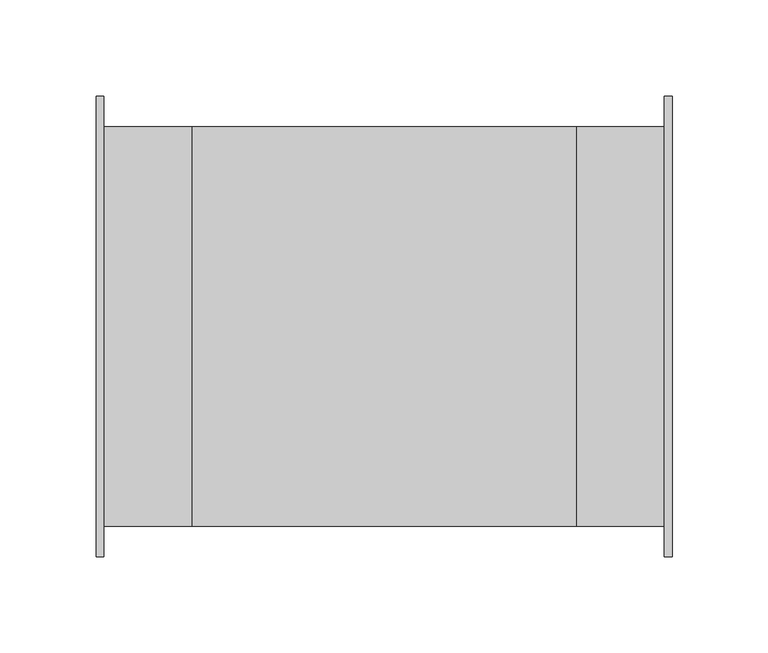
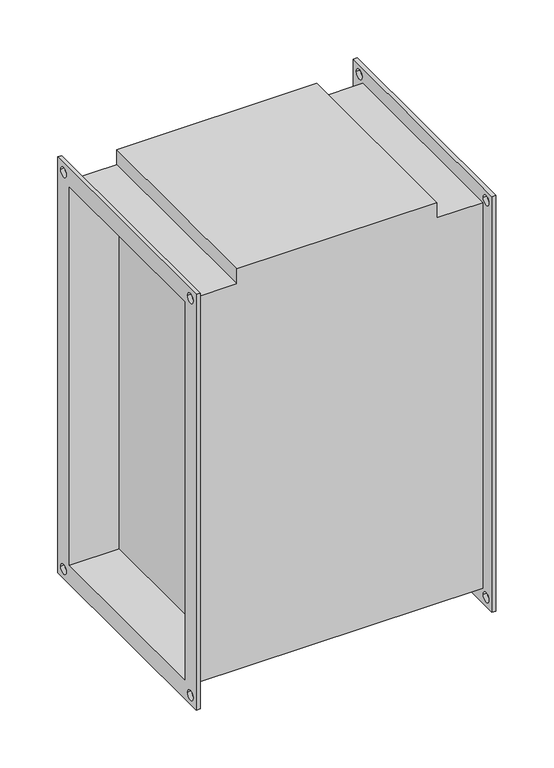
"""IFC4 building model written with IfcOpenShell, lengths in millimetres: proxy geometry."""

from ifc_helpers import new_model, si_unit, frame, origin, place, context, project, spatial, polyline, circle_curve, source, transform, mapped, element, save
from ifc_brep_helpers import plane_surface, revolved_surface, advanced_brep


def mechanical_equipment_d7a41091(model_context):
    return source(origin(), model_context, "Body", "AdvancedBrep", [
        advanced_brep(
        [(-100.0, -104.0, 204.0), (-146.0, -104.0, 204.0), (-146.0, -104.0, -204.0), (146.0, -104.0, -204.0), (146.0, -104.0, 204.0), (100.0, -104.0, 204.0), (100.0, -104.0, 220.0), (-100.0, -104.0, 220.0), (-146.0, 104.0, -204.0), (146.0, 104.0, -204.0), (-146.0, 104.0, 204.0), (-100.0, 104.0, 204.0), (-100.0, 104.0, 220.0), (100.0, 104.0, 220.0), (100.0, 104.0, 204.0), (146.0, 104.0, 204.0), (100.0, 100.0, -200.0), (100.0, 100.0, 200.0), (100.0, -100.0, 200.0), (100.0, -100.0, -200.0), (-100.0, -100.0, 200.0), (-100.0, 100.0, 200.0), (-100.0, 100.0, -200.0), (-100.0, -100.0, -200.0), (-150.0, -120.0, 220.0), (-150.0, 120.0, 220.0), (-150.0, 120.0, -220.0), (-150.0, -120.0, -220.0), (-150.0, -100.0, 200.0), (-150.0, -100.0, -200.0), (-150.0, 100.0, -200.0), (-150.0, 100.0, 200.0), (-150.0, 105.0, 210.0), (-150.0, 115.0, 210.0), (-150.0, -115.0, 210.0), (-150.0, -105.0, 210.0), (-150.0, -115.0, -210.0), (-150.0, -105.0, -210.0), (-150.0, 105.0, -210.0), (-150.0, 115.0, -210.0), (-146.0, -120.0, 220.0), (-146.0, -120.0, -220.0), (-146.0, 120.0, -220.0), (-146.0, 120.0, 220.0), (-146.0, 115.0, 210.0), (-146.0, 105.0, 210.0), (-146.0, -105.0, 210.0), (-146.0, -115.0, 210.0), (-146.0, -105.0, -210.0), (-146.0, -115.0, -210.0), (-146.0, 115.0, -210.0), (-146.0, 105.0, -210.0), (146.0, 120.0, 220.0), (146.0, 120.0, -220.0), (146.0, -120.0, -220.0), (146.0, -120.0, 220.0), (146.0, 105.0, 210.0), (146.0, 115.0, 210.0), (146.0, -115.0, 210.0), (146.0, -105.0, 210.0), (146.0, -115.0, -210.0), (146.0, -105.0, -210.0), (146.0, 105.0, -210.0), (146.0, 115.0, -210.0), (150.0, 120.0, 220.0), (150.0, -120.0, 220.0), (150.0, -120.0, -220.0), (150.0, 120.0, -220.0), (150.0, 100.0, 200.0), (150.0, 100.0, -200.0), (150.0, -100.0, -200.0), (150.0, -100.0, 200.0), (150.0, 115.0, 210.0), (150.0, 105.0, 210.0), (150.0, -105.0, 210.0), (150.0, -115.0, 210.0), (150.0, -105.0, -210.0), (150.0, -115.0, -210.0), (150.0, 115.0, -210.0), (150.0, 105.0, -210.0)],
        [
            (0, 1),
            (1, 2),
            (2, 3),
            (3, 4),
            (4, 5),
            (5, 6),
            (6, 7),
            (7, 0),
            (2, 8),
            (8, 9),
            (9, 3),
            (10, 11),
            (11, 12),
            (12, 13),
            (13, 14),
            (14, 15),
            (15, 9),
            (8, 10),
            (0, 11),
            (10, 1),
            (13, 6),
            (5, 14),
            (16, 17),
            (17, 18),
            (18, 19),
            (19, 16),
            (7, 12),
            (20, 21),
            (21, 22),
            (22, 23),
            (23, 20),
            (4, 15),
            (24, 25),
            (25, 26),
            (26, 27),
            (27, 24),
            (28, 29),
            (29, 30),
            (30, 31),
            (31, 28),
            (32, 33, circle_curve(frame((-150.0, 110.0, 210.0), z_axis=(1.0, 0.0, 0.0), x_axis=(0.0, 1.0, 0.0)), 5.0)),
            (33, 32, circle_curve(frame((-150.0, 110.0, 210.0), z_axis=(1.0, 0.0, 0.0), x_axis=(0.0, 1.0, 0.0)), 5.0)),
            (34, 35, circle_curve(frame((-150.0, -110.0, 210.0), z_axis=(1.0, 0.0, 0.0), x_axis=(0.0, 1.0, 0.0)), 5.0)),
            (35, 34, circle_curve(frame((-150.0, -110.0, 210.0), z_axis=(1.0, 0.0, 0.0), x_axis=(0.0, 1.0, 0.0)), 5.0)),
            (36, 37, circle_curve(frame((-150.0, -110.0, -210.0), z_axis=(1.0, 0.0, 0.0), x_axis=(0.0, 1.0, 0.0)), 5.0)),
            (37, 36, circle_curve(frame((-150.0, -110.0, -210.0), z_axis=(1.0, 0.0, 0.0), x_axis=(0.0, 1.0, 0.0)), 5.0)),
            (38, 39, circle_curve(frame((-150.0, 110.0, -210.0), z_axis=(1.0, 0.0, 0.0), x_axis=(0.0, 1.0, 0.0)), 5.0)),
            (39, 38, circle_curve(frame((-150.0, 110.0, -210.0), z_axis=(1.0, 0.0, 0.0), x_axis=(0.0, 1.0, 0.0)), 5.0)),
            (40, 41),
            (41, 42),
            (42, 43),
            (43, 40),
            (44, 45, circle_curve(frame((-146.0, 110.0, 210.0), z_axis=(-1.0, 0.0, 0.0), x_axis=(0.0, 1.0, 0.0)), 5.0)),
            (45, 44, circle_curve(frame((-146.0, 110.0, 210.0), z_axis=(-1.0, 0.0, 0.0), x_axis=(0.0, 1.0, 0.0)), 5.0)),
            (46, 47, circle_curve(frame((-146.0, -110.0, 210.0), z_axis=(-1.0, 0.0, 0.0), x_axis=(0.0, 1.0, 0.0)), 5.0)),
            (47, 46, circle_curve(frame((-146.0, -110.0, 210.0), z_axis=(-1.0, 0.0, 0.0), x_axis=(0.0, 1.0, 0.0)), 5.0)),
            (48, 49, circle_curve(frame((-146.0, -110.0, -210.0), z_axis=(-1.0, 0.0, 0.0), x_axis=(0.0, 1.0, 0.0)), 5.0)),
            (49, 48, circle_curve(frame((-146.0, -110.0, -210.0), z_axis=(-1.0, 0.0, 0.0), x_axis=(0.0, 1.0, 0.0)), 5.0)),
            (50, 51, circle_curve(frame((-146.0, 110.0, -210.0), z_axis=(-1.0, 0.0, 0.0), x_axis=(0.0, 1.0, 0.0)), 5.0)),
            (51, 50, circle_curve(frame((-146.0, 110.0, -210.0), z_axis=(-1.0, 0.0, 0.0), x_axis=(0.0, 1.0, 0.0)), 5.0)),
            (27, 41),
            (40, 24),
            (26, 42),
            (25, 43),
            (52, 53),
            (53, 54),
            (54, 55),
            (55, 52),
            (56, 57, circle_curve(frame((146.0, 110.0, 210.0), z_axis=(1.0, 0.0, 0.0), x_axis=(0.0, 1.0, 0.0)), 5.0)),
            (57, 56, circle_curve(frame((146.0, 110.0, 210.0), z_axis=(1.0, 0.0, 0.0), x_axis=(0.0, 1.0, 0.0)), 5.0)),
            (58, 59, circle_curve(frame((146.0, -110.0, 210.0), z_axis=(1.0, 0.0, 0.0), x_axis=(0.0, 1.0, 0.0)), 5.0)),
            (59, 58, circle_curve(frame((146.0, -110.0, 210.0), z_axis=(1.0, 0.0, 0.0), x_axis=(0.0, 1.0, 0.0)), 5.0)),
            (60, 61, circle_curve(frame((146.0, -110.0, -210.0), z_axis=(1.0, 0.0, 0.0), x_axis=(0.0, 1.0, 0.0)), 5.0)),
            (61, 60, circle_curve(frame((146.0, -110.0, -210.0), z_axis=(1.0, 0.0, 0.0), x_axis=(0.0, 1.0, 0.0)), 5.0)),
            (62, 63, circle_curve(frame((146.0, 110.0, -210.0), z_axis=(1.0, 0.0, 0.0), x_axis=(0.0, 1.0, 0.0)), 5.0)),
            (63, 62, circle_curve(frame((146.0, 110.0, -210.0), z_axis=(1.0, 0.0, 0.0), x_axis=(0.0, 1.0, 0.0)), 5.0)),
            (64, 65),
            (65, 66),
            (66, 67),
            (67, 64),
            (68, 69),
            (69, 70),
            (70, 71),
            (71, 68),
            (72, 73, circle_curve(frame((150.0, 110.0, 210.0), z_axis=(-1.0, 0.0, 0.0), x_axis=(0.0, 1.0, 0.0)), 5.0)),
            (73, 72, circle_curve(frame((150.0, 110.0, 210.0), z_axis=(-1.0, 0.0, 0.0), x_axis=(0.0, 1.0, 0.0)), 5.0)),
            (74, 75, circle_curve(frame((150.0, -110.0, 210.0), z_axis=(-1.0, 0.0, 0.0), x_axis=(0.0, 1.0, 0.0)), 5.0)),
            (75, 74, circle_curve(frame((150.0, -110.0, 210.0), z_axis=(-1.0, 0.0, 0.0), x_axis=(0.0, 1.0, 0.0)), 5.0)),
            (76, 77, circle_curve(frame((150.0, -110.0, -210.0), z_axis=(-1.0, 0.0, 0.0), x_axis=(0.0, 1.0, 0.0)), 5.0)),
            (77, 76, circle_curve(frame((150.0, -110.0, -210.0), z_axis=(-1.0, 0.0, 0.0), x_axis=(0.0, 1.0, 0.0)), 5.0)),
            (78, 79, circle_curve(frame((150.0, 110.0, -210.0), z_axis=(-1.0, 0.0, 0.0), x_axis=(0.0, 1.0, 0.0)), 5.0)),
            (79, 78, circle_curve(frame((150.0, 110.0, -210.0), z_axis=(-1.0, 0.0, 0.0), x_axis=(0.0, 1.0, 0.0)), 5.0)),
            (55, 65),
            (64, 52),
            (54, 66),
            (53, 67),
            (31, 21),
            (20, 28),
            (30, 22),
            (29, 23),
            (68, 17),
            (16, 69),
            (19, 70),
            (18, 71),
            (32, 45),
            (44, 33),
            (56, 73),
            (72, 57),
            (34, 47),
            (46, 35),
            (58, 75),
            (74, 59),
            (36, 49),
            (48, 37),
            (60, 77),
            (76, 61),
            (38, 51),
            (50, 39),
            (62, 79),
            (78, 63),
        ],
        [
            plane_surface(frame((-100.0, -104.0, 204.0), z_axis=(0.0, -1.0, 0.0), x_axis=(-1.0, 0.0, 0.0))),
            plane_surface(frame((-100.0, -104.0, -204.0), z_axis=(0.0, 0.0, -1.0), x_axis=(-1.0, 0.0, 0.0))),
            plane_surface(frame((-100.0, 104.0, -204.0), z_axis=(0.0, 1.0, 0.0), x_axis=(-1.0, 0.0, 0.0))),
            plane_surface(frame((-100.0, 104.0, 204.0), z_axis=(0.0, 0.0, 1.0), x_axis=(-1.0, 0.0, 0.0))),
            plane_surface(frame((100.0, -104.0, 220.0), z_axis=(1.0, 0.0, 0.0), x_axis=(0.0, 0.0, -1.0))),
            plane_surface(frame((-100.0, -104.0, 220.0), z_axis=(-1.0, 0.0, 0.0), x_axis=(0.0, 0.0, 1.0))),
            plane_surface(frame((100.0, 104.0, 220.0), z_axis=(0.0, 0.0, 1.0), x_axis=(-1.0, 0.0, 0.0))),
            plane_surface(frame((146.0, 104.0, 204.0), z_axis=(0.0, 0.0, 1.0), x_axis=(-1.0, 0.0, 0.0))),
            plane_surface(frame((-150.0, -120.0, 220.0), z_axis=(-1.0, 0.0, 0.0), x_axis=(0.0, 0.0, 1.0))),
            plane_surface(frame((-146.0, -120.0, 220.0), z_axis=(1.0, 0.0, 0.0), x_axis=(0.0, 0.0, -1.0))),
            plane_surface(frame((-146.0, -120.0, 220.0), z_axis=(0.0, -1.0, 0.0), x_axis=(-1.0, 0.0, 0.0))),
            plane_surface(frame((-146.0, -120.0, -220.0), z_axis=(0.0, 0.0, -1.0), x_axis=(-1.0, 0.0, 0.0))),
            plane_surface(frame((-146.0, 120.0, -220.0), z_axis=(0.0, 1.0, 0.0), x_axis=(-1.0, 0.0, 0.0))),
            plane_surface(frame((-146.0, 120.0, 220.0), z_axis=(0.0, 0.0, 1.0), x_axis=(-1.0, 0.0, 0.0))),
            plane_surface(frame((146.0, 100.0, -200.0), z_axis=(-1.0, 0.0, 0.0), x_axis=(0.0, 0.0, 1.0))),
            plane_surface(frame((150.0, 100.0, -200.0), z_axis=(1.0, 0.0, 0.0), x_axis=(0.0, 0.0, -1.0))),
            plane_surface(frame((150.0, 120.0, 220.0), z_axis=(0.0, 0.0, 1.0), x_axis=(-1.0, 0.0, 0.0))),
            plane_surface(frame((150.0, -120.0, 220.0), z_axis=(0.0, -1.0, 0.0), x_axis=(-1.0, 0.0, 0.0))),
            plane_surface(frame((150.0, -120.0, -220.0), z_axis=(0.0, 0.0, -1.0), x_axis=(-1.0, 0.0, 0.0))),
            plane_surface(frame((150.0, 120.0, -220.0), z_axis=(0.0, 1.0, 0.0), x_axis=(-1.0, 0.0, 0.0))),
            plane_surface(frame((-146.0, -100.0, 200.0), z_axis=(0.0, 0.0, -1.0), x_axis=(-1.0, 0.0, 0.0))),
            plane_surface(frame((-146.0, 100.0, 200.0), z_axis=(0.0, -1.0, 0.0), x_axis=(-1.0, 0.0, 0.0))),
            plane_surface(frame((-146.0, 100.0, -200.0), z_axis=(0.0, 0.0, 1.0), x_axis=(-1.0, 0.0, 0.0))),
            plane_surface(frame((-146.0, -100.0, -200.0), z_axis=(0.0, 1.0, 0.0), x_axis=(-1.0, 0.0, 0.0))),
            plane_surface(frame((150.0, 100.0, 200.0), z_axis=(0.0, -1.0, 0.0), x_axis=(-1.0, 0.0, 0.0))),
            plane_surface(frame((150.0, 100.0, -200.0), z_axis=(0.0, 0.0, 1.0), x_axis=(-1.0, 0.0, 0.0))),
            plane_surface(frame((150.0, -100.0, -200.0), z_axis=(0.0, 1.0, 0.0), x_axis=(-1.0, 0.0, 0.0))),
            plane_surface(frame((150.0, -100.0, 200.0), z_axis=(0.0, 0.0, -1.0), x_axis=(-1.0, 0.0, 0.0))),
            revolved_surface(polyline([(-146.0, 115.0, 210.0), (-150.0, 115.0, 210.0)]), (-150.0, 110.0, 210.0), (1.0, 0.0, 0.0)),
            revolved_surface(polyline([(150.0, 115.0, 210.0), (146.0, 115.0, 210.0)]), (-150.0, 110.0, 210.0), (1.0, 0.0, 0.0)),
            revolved_surface(polyline([(-146.0, -105.0, 210.0), (-150.0, -105.0, 210.0)]), (0.0, -110.0, 210.0), (1.0, 0.0, 0.0)),
            revolved_surface(polyline([(150.0, -105.0, 210.0), (146.0, -105.0, 210.0)]), (0.0, -110.0, 210.0), (1.0, 0.0, 0.0)),
            revolved_surface(polyline([(-146.0, -105.0, -210.0), (-150.0, -105.0, -210.0)]), (0.0, -110.0, -210.0), (1.0, 0.0, 0.0)),
            revolved_surface(polyline([(150.0, -105.0, -210.0), (146.0, -105.0, -210.0)]), (0.0, -110.0, -210.0), (1.0, 0.0, 0.0)),
            revolved_surface(polyline([(-146.0, 115.0, -210.0), (-150.0, 115.0, -210.0)]), (0.0, 110.0, -210.0), (1.0, 0.0, 0.0)),
            revolved_surface(polyline([(150.0, 115.0, -210.0), (146.0, 115.0, -210.0)]), (0.0, 110.0, -210.0), (1.0, 0.0, 0.0)),
        ],
        [
            (0, [[1, 2, 3, 4, 5, 6, 7, 8]]),
            (1, [[-3, 9, 10, 11]]),
            (2, [[12, 13, 14, 15, 16, 17, -10, 18]]),
            (3, [[-1, 19, -12, 20]]),
            (4, [[21, -6, 22, -15]]),
            (4, [[23, 24, 25, 26]]),
            (5, [[27, -13, -19, -8]]),
            (5, [[28, 29, 30, 31]]),
            (6, [[-21, -14, -27, -7]]),
            (7, [[-5, 32, -16, -22]]),
            (8, [[33, 34, 35, 36], [37, 38, 39, 40], [41, 42], [43, 44], [45, 46], [47, 48]]),
            (9, [[49, 50, 51, 52], [-2, -20, -18, -9], [53, 54], [55, 56], [57, 58], [59, 60]]),
            (10, [[-36, 61, -49, 62]]),
            (11, [[-35, 63, -50, -61]]),
            (12, [[-34, 64, -51, -63]]),
            (13, [[-33, -62, -52, -64]]),
            (14, [[65, 66, 67, 68], [-4, -11, -17, -32], [69, 70], [71, 72], [73, 74], [75, 76]]),
            (15, [[77, 78, 79, 80], [81, 82, 83, 84], [85, 86], [87, 88], [89, 90], [91, 92]]),
            (16, [[-68, 93, -77, 94]]),
            (17, [[-67, 95, -78, -93]]),
            (18, [[-66, 96, -79, -95]]),
            (19, [[-65, -94, -80, -96]]),
            (20, [[-40, 97, -28, 98]]),
            (21, [[-39, 99, -29, -97]]),
            (22, [[-38, 100, -30, -99]]),
            (23, [[-37, -98, -31, -100]]),
            (24, [[-81, 101, -23, 102]]),
            (25, [[-82, -102, -26, 103]]),
            (26, [[-83, -103, -25, 104]]),
            (27, [[-101, -84, -104, -24]]),
            (28, [[105, -53, 106, -41]]),
            (29, [[107, -85, 108, -69]]),
            (28, [[-105, -42, -106, -54]]),
            (29, [[-107, -70, -108, -86]]),
            (30, [[109, -55, 110, -43]]),
            (31, [[111, -87, 112, -71]]),
            (30, [[-109, -44, -110, -56]]),
            (31, [[-111, -72, -112, -88]]),
            (32, [[113, -57, 114, -45]]),
            (33, [[115, -89, 116, -73]]),
            (32, [[-113, -46, -114, -58]]),
            (33, [[-115, -74, -116, -90]]),
            (34, [[117, -59, 118, -47]]),
            (35, [[119, -91, 120, -75]]),
            (34, [[-117, -48, -118, -60]]),
            (35, [[-119, -76, -120, -92]]),
        ],
    ),
    ])


if __name__ == "__main__":
    model = new_model("IFC4")
    model_context = context("Model", 3, world=origin())
    ifc_project = project(units=[si_unit("LENGTHUNIT", "METRE", prefix="MILLI")], contexts=[model_context])
    site = spatial("IfcSite", under=ifc_project)
    building = spatial("IfcBuilding", under=site)
    placement = place(None, origin())
    mechanical_equipment_shape = mechanical_equipment_d7a41091(model_context)
    element("IfcBuildingElementProxy", 1, Name="Mechanical Equipment", at=placement, inside=building, context=model_context, shape_type="MappedRepresentation", body=[
        mapped(mechanical_equipment_shape, transform((0.0, 0.0, 0.0), x_axis=(1.0, 0.0, 0.0), y_axis=(0.0, 1.0, 0.0), z_axis=(0.0, 0.0, 1.0))),
    ])
    save(model, "model.ifc")
